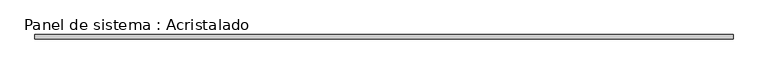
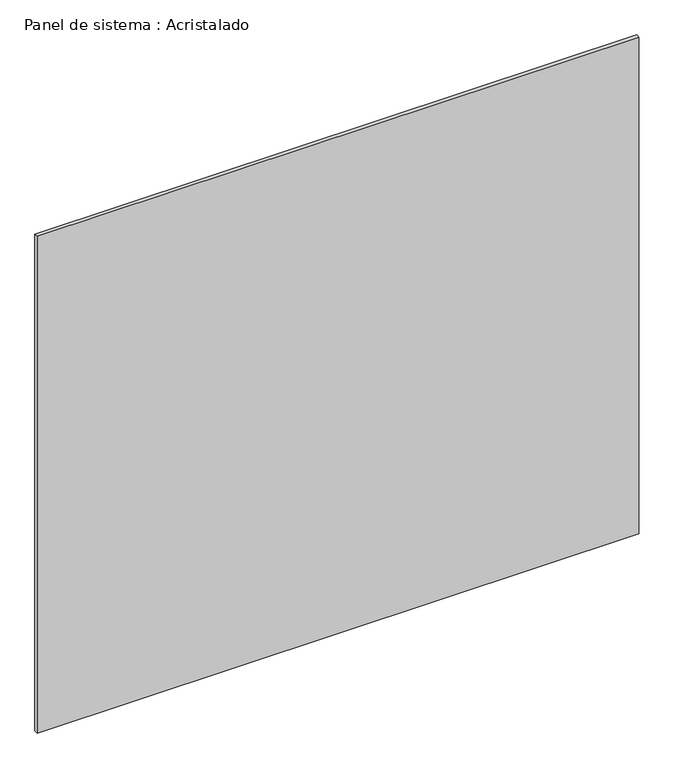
"""IFC4 building model written with IfcOpenShell, lengths in millimetres: plate geometry, Panel de sistema : Acristalado."""

from ifc_helpers import new_model, si_unit, origin, origin_with_axes, place, context, project, spatial, polyline, outline, extrude, source, transform, mapped, element, save


def panel_de_sistema_acristalado_69a41de7(model_context):
    return source(origin(), model_context, "Body", "SweptSolid", [
        extrude(outline(polyline([(1615.4482759, -10.0), (-1615.4482759, -10.0), (-1615.4482759, 10.0), (1615.4482759, 10.0), (1615.4482759, -10.0)])), origin_with_axes(), (0.0, 0.0, 1.0), 2820.0),
    ])


if __name__ == "__main__":
    model = new_model("IFC4")
    model_context = context("Model", 3, world=origin())
    ifc_project = project(units=[si_unit("LENGTHUNIT", "METRE", prefix="MILLI")], contexts=[model_context])
    site = spatial("IfcSite", under=ifc_project)
    building = spatial("IfcBuilding", under=site)
    placement = place(None, origin())
    panel_de_sistema_acristalado_shape = panel_de_sistema_acristalado_69a41de7(model_context)
    element("IfcPlate", 1, ObjectType="Panel de sistema : Acristalado", at=placement, inside=building, context=model_context, shape_type="MappedRepresentation", body=[
        mapped(panel_de_sistema_acristalado_shape, transform((0.0, 0.0, 0.0), x_axis=(1.0, 0.0, 0.0), y_axis=(0.0, 1.0, 0.0), z_axis=(0.0, 0.0, 1.0))),
    ])
    save(model, "model.ifc")
